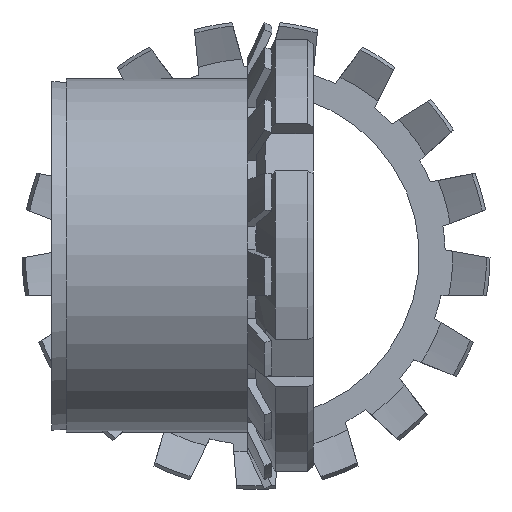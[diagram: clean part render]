
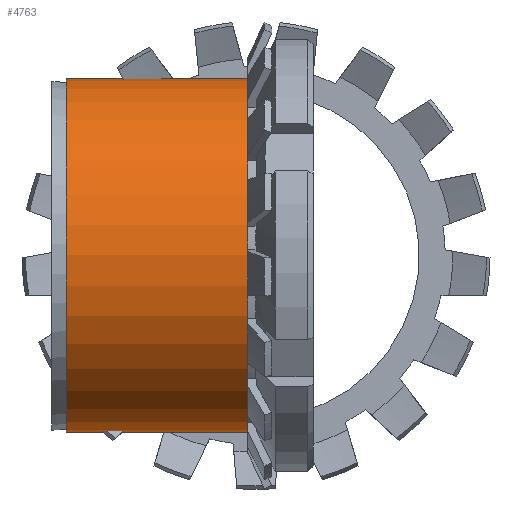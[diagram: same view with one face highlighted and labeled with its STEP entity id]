
A CAD part, left-side view. The second image highlights one B-rep face of the part: STEP entity #4763.
In plain terms, the highlighted cylindrical face has radius 32.5 mm (diameter 65 mm), a full revolution.
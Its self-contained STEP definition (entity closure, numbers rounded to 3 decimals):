
#4763 = ADVANCED_FACE( '', ( #6414, #6415 ), #6416, .T. );
#6414 = FACE_OUTER_BOUND( '', #6619, .T. );
#6415 = FACE_OUTER_BOUND( '', #6620, .T. );
#6416 = CYLINDRICAL_SURFACE( '', #6621, 32.5 );
#6619 = EDGE_LOOP( '', ( #6903 ) );
#6620 = EDGE_LOOP( '', ( #6904 ) );
#6621 = AXIS2_PLACEMENT_3D( '', #6905, #6906, #6907 );
#6903 = ORIENTED_EDGE( '', *, *, #7344, .F. );
#6904 = ORIENTED_EDGE( '', *, *, #7346, .T. );
#6905 = CARTESIAN_POINT( '', ( 0., -60., 0. ) );
#6906 = DIRECTION( '', ( 0., 1., 0. ) );
#6907 = DIRECTION( '', ( 0., 0., -1. ) );
#7344 = EDGE_CURVE( '', #7515, #7515, #7516, .T. );
#7346 = EDGE_CURVE( '', #7519, #7519, #7520, .T. );
#7515 = VERTEX_POINT( '', #7818 );
#7516 = CIRCLE( '', #7819, 32.5 );
#7519 = VERTEX_POINT( '', #7822 );
#7520 = CIRCLE( '', #7823, 32.5 );
#7818 = CARTESIAN_POINT( '', ( 0., 0., -32.5 ) );
#7819 = AXIS2_PLACEMENT_3D( '', #8056, #8057, #8058 );
#7822 = CARTESIAN_POINT( '', ( 0., 34.833, -32.5 ) );
#7823 = AXIS2_PLACEMENT_3D( '', #8062, #8063, #8064 );
#8056 = CARTESIAN_POINT( '', ( 0., 0., 0. ) );
#8057 = DIRECTION( '', ( 0., -1., 0. ) );
#8058 = DIRECTION( '', ( 0., 0., -1. ) );
#8062 = CARTESIAN_POINT( '', ( 0., 34.833, 0. ) );
#8063 = DIRECTION( '', ( 0., -1., 0. ) );
#8064 = DIRECTION( '', ( 0., 0., -1. ) );
